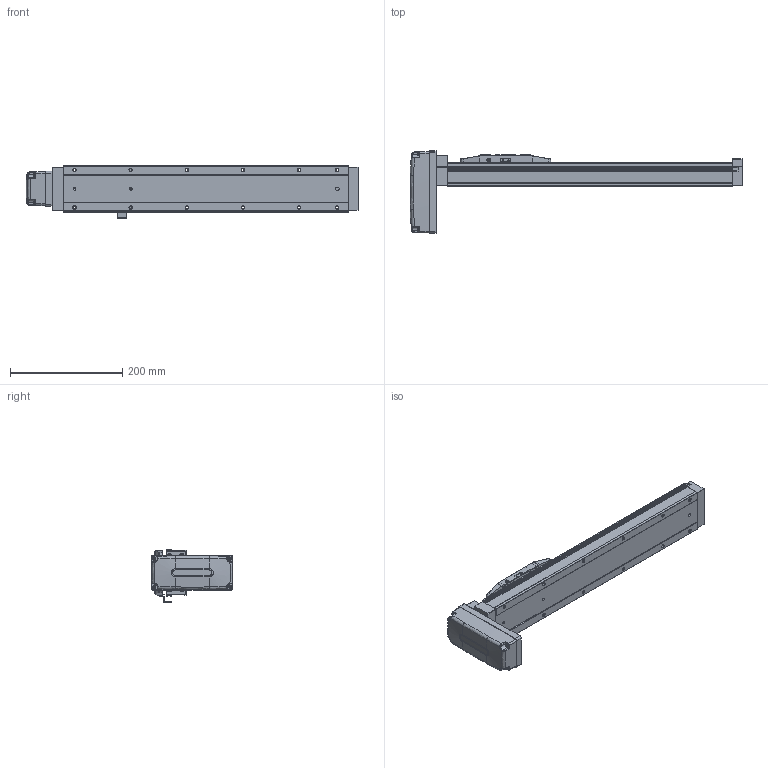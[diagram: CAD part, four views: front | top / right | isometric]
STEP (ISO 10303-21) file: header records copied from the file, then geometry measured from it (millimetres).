
FILE_DESCRIPTION (( 'STEP AP203' ), '1' );
FILE_NAME ('EFS-08D_MY.STEP', '2025-07-17T09:02:27', ( '' ), ( '' ), 'SwSTEP 2.0', 'SolidWorks 2024', '' );
FILE_SCHEMA (( 'CONFIG_CONTROL_DESIGN' ));
Length unit declared in the file: millimetre
Products named in the file (1): EFS-08D_MY
Bounding box: 591.5 x 146 x 94.5 mm (x, y, z)
Volume: 2194334.7 mm3; surface area: 273506.2 mm2
Topology: 15 solids, 15 shells, 931 faces, 2392 edges, 1520 vertices
Faces by surface type: plane 398, cylinder 317, cone 90, bspline 78, torus 38, sphere 10
Entity records: 32913 total; most frequent: CARTESIAN_POINT 10679, ORIENTED_EDGE 4712, DIRECTION 4481, EDGE_CURVE 2356, AXIS2_PLACEMENT_3D 1596, VERTEX_POINT 1520, VECTOR 1289, LINE 1289
